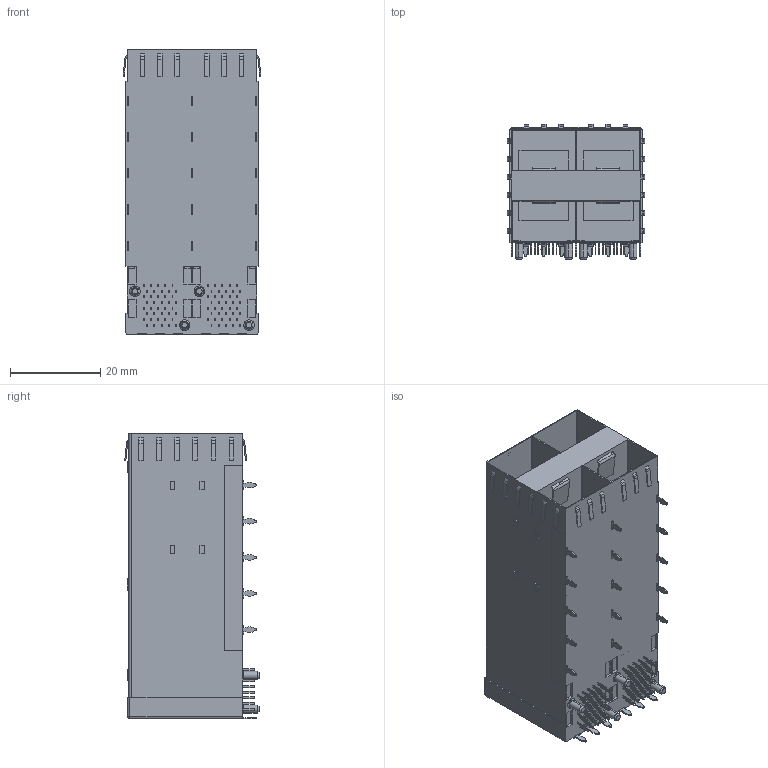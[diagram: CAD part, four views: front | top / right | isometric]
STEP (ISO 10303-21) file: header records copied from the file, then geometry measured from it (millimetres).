
FILE_DESCRIPTION (( 'STEP AP203' ), '1' );
FILE_NAME ('SFP 2X2拸堎挴 拸絳嫖翐.STEP', '2024-05-31T03:02:53', ( '' ), ( '' ), 'SwSTEP 2.0', 'SolidWorks 2018', '' );
FILE_SCHEMA (( 'CONFIG_CONTROL_DESIGN' ));
Length unit declared in the file: millimetre
Products named in the file (1): SFP 2X2拸堎挴 拸絳嫖翐
Bounding box: 30.55 x 29.8 x 63.25 mm (x, y, z)
Volume: 23639.9 mm3; surface area: 18563.7 mm2
Topology: 1 solids, 1 shells, 1302 faces, 3466 edges, 2302 vertices
Faces by surface type: plane 966, cylinder 318, cone 16, sphere 2
Entity records: 40313 total; most frequent: CARTESIAN_POINT 7069, ORIENTED_EDGE 6928, DIRECTION 6722, EDGE_CURVE 3464, LINE 2812, VECTOR 2812, VERTEX_POINT 2302, AXIS2_PLACEMENT_3D 1955
